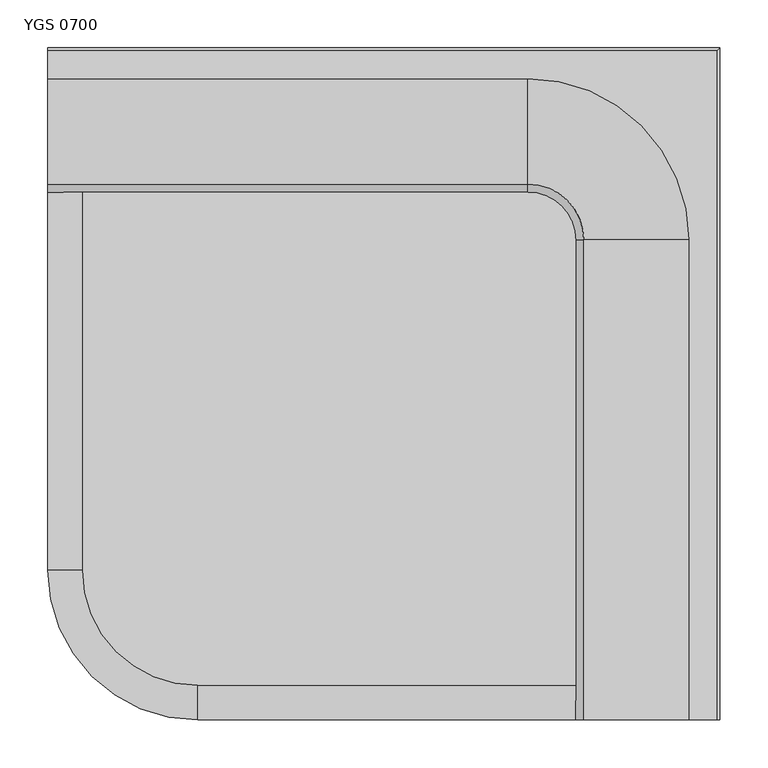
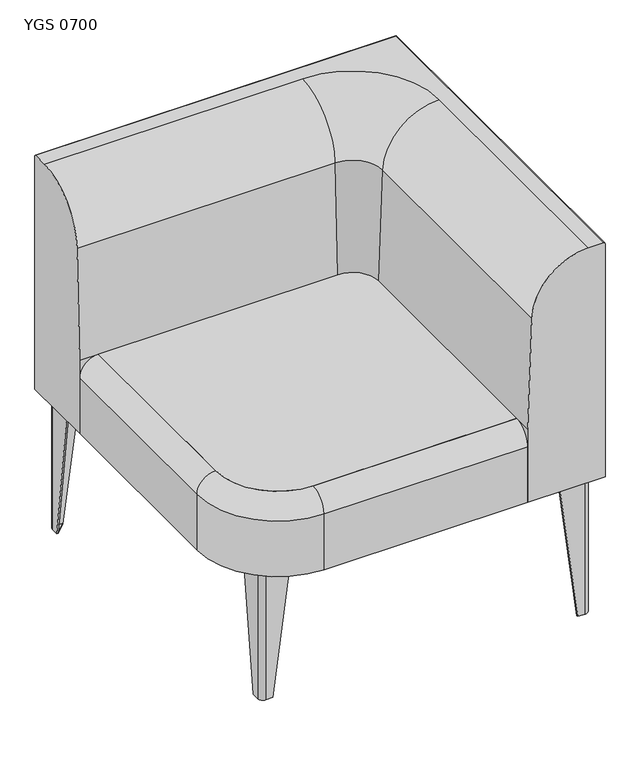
"""IFC4 building model written with IfcOpenShell, lengths in millimetres: furniture geometry, Mobiliário_Mobiliário de Escritório_LinhaYoung_Sofa Globe (Aço) - YGS_Marelli : YGS 0700."""

from ifc_helpers import new_model, si_unit, point, frame, frame_2d, origin, origin_with_axes, place, context, project, spatial, polyline, circle_curve, ellipse_curve, trimmed, segment, composite_curve, outline, extrude, source, transform, mapped, element, save
from ifc_brep_helpers import plane_surface, cylinder_surface, revolved_surface, advanced_brep


def ygs_0700_92577f61(model_context):
    return source(origin(), model_context, "Body", "SolidModel", [
        advanced_brep(
        [(70.7550905, 125.7550905, 280.0), (70.7550905, 75.7550905, 280.0), (80.7550905, 65.7550905, 280.0), (130.7550905, 65.7550905, 280.0), (130.7550905, 68.7550905, 280.0), (80.7550905, 68.7550905, 280.0), (73.7550905, 75.7550905, 280.0), (73.7550905, 125.7550905, 280.0), (70.7550905, 89.7550905, 0.0), (73.7550905, 89.7550905, 0.0), (73.7550905, 75.7550905, 0.0), (80.7550905, 68.7550905, 0.0), (94.7550905, 68.7550905, 0.0), (94.7550905, 65.7550905, 0.0), (80.7550905, 65.7550905, 0.0), (70.7550905, 75.7550905, 0.0)],
        [
            (0, 1),
            (1, 2, circle_curve(frame((80.7550905, 75.7550905, 280.0), z_axis=(0.0, 0.0, 1.0), x_axis=(0.0, -1.0, 0.0)), 10.0)),
            (2, 3),
            (3, 4),
            (4, 5),
            (5, 6, circle_curve(frame((80.7550905, 75.7550905, 280.0), z_axis=(0.0, 0.0, -1.0), x_axis=(-1.0, 0.0, 0.0)), 7.0)),
            (6, 7),
            (7, 0),
            (8, 9),
            (9, 10),
            (10, 11, circle_curve(frame((80.7550905, 75.7550905, 0.0), z_axis=(0.0, 0.0, 1.0), x_axis=(-1.0, 0.0, 0.0)), 7.0)),
            (11, 12),
            (12, 13),
            (13, 14),
            (14, 15, circle_curve(frame((80.7550905, 75.7550905, 0.0), z_axis=(0.0, 0.0, -1.0), x_axis=(0.0, -1.0, 0.0)), 10.0)),
            (15, 8),
            (15, 1),
            (0, 8),
            (14, 2),
            (13, 3),
            (12, 4),
            (11, 5),
            (10, 6),
            (9, 7),
        ],
        [
            plane_surface(frame((89.0050905, 84.0050905, 280.0), z_axis=(0.0, 0.0, 1.0), x_axis=(0.0, -1.0, 0.0))),
            plane_surface(frame((80.0050905, 75.0050905, 0.0), z_axis=(0.0, 0.0, -1.0), x_axis=(0.0, -1.0, 0.0))),
            plane_surface(frame((70.7550905, 82.7550905, 0.0), z_axis=(-1.0, 0.0, 0.0), x_axis=(0.0, -1.0, 0.0))),
            cylinder_surface(frame((80.7550905, 75.7550905, 0.0), z_axis=(0.0, 0.0, 1.0), x_axis=(0.0, -1.0, 0.0)), 10.0),
            plane_surface(frame((87.7550905, 65.7550905, 0.0), z_axis=(0.0, -1.0, 0.0), x_axis=(1.0, 0.0, 0.0))),
            plane_surface(frame((94.7550905, 67.2550905, 0.0), z_axis=(0.9918357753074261, 0.0, -0.127521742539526), x_axis=(0.0, 1.0, 0.0))),
            plane_surface(frame((87.7550905, 68.7550905, 0.0), z_axis=(0.0, 1.0, 0.0), x_axis=(-1.0, 0.0, 0.0))),
            revolved_surface(polyline([(73.7550905, 75.7550905, 280.0), (73.7550905, 75.7550905, 0.0)]), (80.7550905, 75.7550905, 0.0), (0.0, 0.0, 1.0)),
            plane_surface(frame((73.7550905, 82.7550905, 0.0), z_axis=(1.0, 0.0, 0.0), x_axis=(0.0, 1.0, 0.0))),
            plane_surface(frame((72.2550905, 89.7550905, 0.0), z_axis=(0.0, 0.9918357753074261, -0.127521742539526), x_axis=(-1.0, 0.0, 0.0))),
        ],
        [
            (0, [[1, 2, 3, 4, 5, 6, 7, 8]]),
            (1, [[9, 10, 11, 12, 13, 14, 15, 16]]),
            (2, [[-16, 17, -1, 18]]),
            (3, [[-15, 19, -2, -17]]),
            (4, [[-14, 20, -3, -19]]),
            (5, [[-13, 21, -4, -20]]),
            (6, [[-12, 22, -5, -21]]),
            (7, [[-11, 23, -6, -22]]),
            (8, [[-10, 24, -7, -23]]),
            (9, [[-9, -18, -8, -24]]),
        ],
    ),
        advanced_brep(
        [(680.0, 75.0, 280.0), (677.0, 75.0, 280.0), (677.0, 25.0, 280.0), (670.0, 18.0, 280.0), (620.0, 18.0, 280.0), (620.0, 15.0, 280.0), (670.0, 15.0, 280.0), (680.0, 25.0, 280.0), (680.0, 39.0, 0.0), (680.0, 25.0, 0.0), (670.0, 15.0, 0.0), (656.0, 15.0, 0.0), (656.0, 18.0, 0.0), (670.0, 18.0, 0.0), (677.0, 25.0, 0.0), (677.0, 39.0, 0.0)],
        [
            (0, 1),
            (1, 2),
            (2, 3, circle_curve(frame((670.0, 25.0, 280.0), z_axis=(0.0, 0.0, -1.0), x_axis=(0.0, -1.0, 0.0)), 7.0)),
            (3, 4),
            (4, 5),
            (5, 6),
            (6, 7, circle_curve(frame((670.0, 25.0, 280.0), z_axis=(0.0, 0.0, 1.0), x_axis=(1.0, 0.0, 0.0)), 10.0)),
            (7, 0),
            (8, 9),
            (9, 10, circle_curve(frame((670.0, 25.0, 0.0), z_axis=(0.0, 0.0, -1.0), x_axis=(1.0, 0.0, 0.0)), 10.0)),
            (10, 11),
            (11, 12),
            (12, 13),
            (13, 14, circle_curve(frame((670.0, 25.0, 0.0), z_axis=(0.0, 0.0, 1.0), x_axis=(0.0, -1.0, 0.0)), 7.0)),
            (14, 15),
            (15, 8),
            (8, 0),
            (7, 9),
            (6, 10),
            (5, 11),
            (4, 12),
            (3, 13),
            (2, 14),
            (1, 15),
        ],
        [
            plane_surface(frame((661.75, 33.25, 280.0), z_axis=(0.0, 0.0, 1.0), x_axis=(-1.0, 0.0, 0.0))),
            plane_surface(frame((670.75, 24.25, 0.0), z_axis=(0.0, 0.0, -1.0), x_axis=(-1.0, 0.0, 0.0))),
            plane_surface(frame((680.0, 32.0, 0.0), z_axis=(1.0, 0.0, 0.0), x_axis=(0.0, 1.0, 0.0))),
            cylinder_surface(frame((670.0, 25.0, 0.0), z_axis=(0.0, 0.0, 1.0), x_axis=(1.0, 0.0, 0.0)), 10.0),
            plane_surface(frame((663.0, 15.0, 0.0), z_axis=(0.0, -1.0, 0.0), x_axis=(1.0, 0.0, 0.0))),
            plane_surface(frame((656.0, 16.5, 0.0), z_axis=(-0.9918357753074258, 0.0, -0.1275217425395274), x_axis=(0.0, -1.0, 0.0))),
            plane_surface(frame((663.0, 18.0, 0.0), z_axis=(0.0, 1.0, 0.0), x_axis=(-1.0, 0.0, 0.0))),
            revolved_surface(polyline([(670.0, 18.0, 280.0), (670.0, 18.0, 0.0)]), (670.0, 25.0, 0.0), (0.0, 0.0, 1.0)),
            plane_surface(frame((677.0, 32.0, 0.0), z_axis=(-1.0, 0.0, 0.0), x_axis=(0.0, -1.0, 0.0))),
            plane_surface(frame((678.5, 39.0, 0.0), z_axis=(0.0, 0.9918357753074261, -0.12752174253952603), x_axis=(-1.0, 0.0, 0.0))),
        ],
        [
            (0, [[1, 2, 3, 4, 5, 6, 7, 8]]),
            (1, [[9, 10, 11, 12, 13, 14, 15, 16]]),
            (2, [[-9, 17, -8, 18]]),
            (3, [[-10, -18, -7, 19]]),
            (4, [[-11, -19, -6, 20]]),
            (5, [[-12, -20, -5, 21]]),
            (6, [[-13, -21, -4, 22]]),
            (7, [[-14, -22, -3, 23]]),
            (8, [[-15, -23, -2, 24]]),
            (9, [[-16, -24, -1, -17]]),
        ],
    ),
        advanced_brep(
        [(20.0, 625.0, 280.0), (23.0, 625.0, 280.0), (23.0, 675.0, 280.0), (30.0, 682.0, 280.0), (80.0, 682.0, 280.0), (80.0, 685.0, 280.0), (30.0, 685.0, 280.0), (20.0, 675.0, 280.0), (20.0, 661.0, 0.0), (20.0, 675.0, 0.0), (30.0, 685.0, 0.0), (44.0, 685.0, 0.0), (44.0, 682.0, 0.0), (30.0, 682.0, 0.0), (23.0, 675.0, 0.0), (23.0, 661.0, 0.0)],
        [
            (0, 1),
            (1, 2),
            (2, 3, circle_curve(frame((30.0, 675.0, 280.0), z_axis=(0.0, 0.0, -1.0), x_axis=(0.0, 1.0, 0.0)), 7.0)),
            (3, 4),
            (4, 5),
            (5, 6),
            (6, 7, circle_curve(frame((30.0, 675.0, 280.0), z_axis=(0.0, 0.0, 1.0), x_axis=(-1.0, 0.0, 0.0)), 10.0)),
            (7, 0),
            (8, 9),
            (9, 10, circle_curve(frame((30.0, 675.0, 0.0), z_axis=(0.0, 0.0, -1.0), x_axis=(-1.0, 0.0, 0.0)), 10.0)),
            (10, 11),
            (11, 12),
            (12, 13),
            (13, 14, circle_curve(frame((30.0, 675.0, 0.0), z_axis=(0.0, 0.0, 1.0), x_axis=(0.0, 1.0, 0.0)), 7.0)),
            (14, 15),
            (15, 8),
            (8, 0),
            (7, 9),
            (6, 10),
            (5, 11),
            (4, 12),
            (3, 13),
            (2, 14),
            (1, 15),
        ],
        [
            plane_surface(frame((38.25, 666.75, 280.0), z_axis=(0.0, 0.0, 1.0), x_axis=(1.0, 0.0, 0.0))),
            plane_surface(frame((29.25, 675.75, 0.0), z_axis=(0.0, 0.0, -1.0), x_axis=(1.0, 0.0, 0.0))),
            plane_surface(frame((20.0, 668.0, 0.0), z_axis=(-1.0, 0.0, 0.0), x_axis=(0.0, -1.0, 0.0))),
            cylinder_surface(frame((30.0, 675.0, 0.0), z_axis=(0.0, 0.0, 1.0), x_axis=(-1.0, 0.0, 0.0)), 10.0),
            plane_surface(frame((37.0, 685.0, 0.0), z_axis=(0.0, 1.0, 0.0), x_axis=(-1.0, 0.0, 0.0))),
            plane_surface(frame((44.0, 683.5, 0.0), z_axis=(0.9918357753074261, 0.0, -0.12752174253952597), x_axis=(0.0, 1.0, 0.0))),
            plane_surface(frame((37.0, 682.0, 0.0), z_axis=(0.0, -1.0, 0.0), x_axis=(1.0, 0.0, 0.0))),
            revolved_surface(polyline([(30.0, 682.0, 280.0), (30.0, 682.0, 0.0)]), (30.0, 675.0, 0.0), (0.0, 0.0, 1.0)),
            plane_surface(frame((23.0, 668.0, 0.0), z_axis=(1.0, 0.0, 0.0), x_axis=(0.0, 1.0, 0.0))),
            plane_surface(frame((21.5, 661.0, 0.0), z_axis=(0.0, -0.9918357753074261, -0.127521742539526), x_axis=(1.0, 0.0, 0.0))),
        ],
        [
            (0, [[1, 2, 3, 4, 5, 6, 7, 8]]),
            (1, [[9, 10, 11, 12, 13, 14, 15, 16]]),
            (2, [[-9, 17, -8, 18]]),
            (3, [[-10, -18, -7, 19]]),
            (4, [[-11, -19, -6, 20]]),
            (5, [[-12, -20, -5, 21]]),
            (6, [[-13, -21, -4, 22]]),
            (7, [[-14, -22, -3, 23]]),
            (8, [[-15, -23, -2, 24]]),
            (9, [[-16, -24, -1, -17]]),
        ],
    ),
        advanced_brep(
        [(680.0, 625.0, 280.0), (680.0, 675.0, 280.0), (670.0, 685.0, 280.0), (620.0, 685.0, 280.0), (620.0, 682.0, 280.0), (670.0, 682.0, 280.0), (677.0, 675.0, 280.0), (677.0, 625.0, 280.0), (680.0, 661.0, 0.0), (677.0, 661.0, 0.0), (677.0, 675.0, 0.0), (670.0, 682.0, 0.0), (656.0, 682.0, 0.0), (656.0, 685.0, 0.0), (670.0, 685.0, 0.0), (680.0, 675.0, 0.0)],
        [
            (0, 1),
            (1, 2, circle_curve(frame((670.0, 675.0, 280.0), z_axis=(0.0, 0.0, 1.0), x_axis=(0.0, 1.0, 0.0)), 10.0)),
            (2, 3),
            (3, 4),
            (4, 5),
            (5, 6, circle_curve(frame((670.0, 675.0, 280.0), z_axis=(0.0, 0.0, -1.0), x_axis=(1.0, 0.0, 0.0)), 7.0)),
            (6, 7),
            (7, 0),
            (8, 9),
            (9, 10),
            (10, 11, circle_curve(frame((670.0, 675.0, 0.0), z_axis=(0.0, 0.0, 1.0), x_axis=(1.0, 0.0, 0.0)), 7.0)),
            (11, 12),
            (12, 13),
            (13, 14),
            (14, 15, circle_curve(frame((670.0, 675.0, 0.0), z_axis=(0.0, 0.0, -1.0), x_axis=(0.0, 1.0, 0.0)), 10.0)),
            (15, 8),
            (15, 1),
            (0, 8),
            (14, 2),
            (13, 3),
            (12, 4),
            (11, 5),
            (10, 6),
            (9, 7),
        ],
        [
            plane_surface(frame((661.75, 666.75, 280.0), z_axis=(0.0, 0.0, 1.0), x_axis=(0.0, 1.0, 0.0))),
            plane_surface(frame((670.75, 675.75, 0.0), z_axis=(0.0, 0.0, -1.0), x_axis=(0.0, 1.0, 0.0))),
            plane_surface(frame((680.0, 668.0, 0.0), z_axis=(1.0, 0.0, 0.0), x_axis=(0.0, 1.0, 0.0))),
            cylinder_surface(frame((670.0, 675.0, 0.0), z_axis=(0.0, 0.0, 1.0), x_axis=(0.0, 1.0, 0.0)), 10.0),
            plane_surface(frame((663.0, 685.0, 0.0), z_axis=(0.0, 1.0, 0.0), x_axis=(-1.0, 0.0, 0.0))),
            plane_surface(frame((656.0, 683.5, 0.0), z_axis=(-0.9918357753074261, 0.0, -0.127521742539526), x_axis=(0.0, -1.0, 0.0))),
            plane_surface(frame((663.0, 682.0, 0.0), z_axis=(0.0, -1.0, 0.0), x_axis=(1.0, 0.0, 0.0))),
            revolved_surface(polyline([(677.0, 675.0, 280.0), (677.0, 675.0, 0.0)]), (670.0, 675.0, 0.0), (0.0, 0.0, 1.0)),
            plane_surface(frame((677.0, 668.0, 0.0), z_axis=(-1.0, 0.0, 0.0), x_axis=(0.0, -1.0, 0.0))),
            plane_surface(frame((678.5, 661.0, 0.0), z_axis=(0.0, -0.9918357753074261, -0.127521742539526), x_axis=(1.0, 0.0, 0.0))),
        ],
        [
            (0, [[1, 2, 3, 4, 5, 6, 7, 8]]),
            (1, [[9, 10, 11, 12, 13, 14, 15, 16]]),
            (2, [[-16, 17, -1, 18]]),
            (3, [[-15, 19, -2, -17]]),
            (4, [[-14, 20, -3, -19]]),
            (5, [[-13, 21, -4, -20]]),
            (6, [[-12, 22, -5, -21]]),
            (7, [[-11, 23, -6, -22]]),
            (8, [[-10, 24, -7, -23]]),
            (9, [[-9, -18, -8, -24]]),
        ],
    ),
        extrude(outline(composite_curve([segment(polyline([(73.7550905, 89.7550905), (94.7550905, 68.7550905), (80.7550905, 68.7550905)]), True, "CONTINUOUS"), segment(trimmed(circle_curve(frame_2d((80.7550905, 75.7550905)), 7.0), [point((80.7550905, 68.7550905))], [point((73.7550905, 75.7550905))], False, "CARTESIAN"), True, "CONTINUOUS"), segment(polyline([(73.7550905, 75.7550905), (73.7550905, 89.7550905)]), True, "CONTINUOUS")], self_intersect=False)), origin_with_axes(), (0.0, 0.0, 1.0), 1.0),
        extrude(outline(composite_curve([segment(polyline([(23.0, 661.0), (23.0, 675.0)]), True, "CONTINUOUS"), segment(trimmed(circle_curve(frame_2d((30.0, 675.0)), 7.0), [point((23.0, 675.0))], [point((30.0, 682.0))], False, "CARTESIAN"), True, "CONTINUOUS"), segment(polyline([(30.0, 682.0), (44.0, 682.0), (23.0, 661.0)]), True, "CONTINUOUS")], self_intersect=False)), origin_with_axes(), (0.0, 0.0, 1.0), 1.0),
        extrude(outline(composite_curve([segment(polyline([(677.0, 39.0), (677.0, 25.0)]), True, "CONTINUOUS"), segment(trimmed(circle_curve(frame_2d((670.0, 25.0)), 7.0), [point((677.0, 25.0))], [point((670.0, 18.0))], False, "CARTESIAN"), True, "CONTINUOUS"), segment(polyline([(670.0, 18.0), (656.0, 18.0), (677.0, 39.0)]), True, "CONTINUOUS")], self_intersect=False)), origin_with_axes(), (0.0, 0.0, 1.0), 1.0),
        extrude(outline(composite_curve([segment(polyline([(677.0, 661.0), (656.0, 682.0), (670.0, 682.0)]), True, "CONTINUOUS"), segment(trimmed(circle_curve(frame_2d((670.0, 675.0)), 7.0), [point((670.0, 682.0))], [point((677.0, 675.0))], False, "CARTESIAN"), True, "CONTINUOUS"), segment(polyline([(677.0, 675.0), (677.0, 661.0)]), True, "CONTINUOUS")], self_intersect=False)), origin_with_axes(), (0.0, 0.0, 1.0), 1.0),
        extrude(outline(composite_curve([segment(trimmed(circle_curve(frame_2d((80.7550905, 75.7550905)), 7.0), [point((80.7550905, 68.7550905))], [point((73.7550905, 75.7550905))], False, "CARTESIAN"), True, "CONTINUOUS"), segment(polyline([(73.7550905, 75.7550905), (73.7550905, 143.7550905)]), True, "CONTINUOUS"), segment(trimmed(circle_curve(frame_2d((78.7550905, 143.7550905)), 5.0), [point((73.7550905, 143.7550905))], [point((78.7550905, 148.7550905))], False, "CARTESIAN"), True, "CONTINUOUS"), segment(polyline([(78.7550905, 148.7550905), (102.7096529, 148.7550905)]), True, "CONTINUOUS"), segment(trimmed(circle_curve(frame_2d((103.3791957, 140.6868455)), 8.0959783), [point((102.7096529, 148.7550905))], [point((109.2754725, 146.2347085))], False, "CARTESIAN"), True, "CONTINUOUS"), segment(polyline([(109.2754725, 146.2347085), (151.2347085, 104.2754725)]), True, "CONTINUOUS"), segment(trimmed(circle_curve(frame_2d((145.6868455, 98.3791957)), 8.0959783), [point((151.2347085, 104.2754725))], [point((153.7550905, 97.7096529))], False, "CARTESIAN"), True, "CONTINUOUS"), segment(polyline([(153.7550905, 97.7096529), (153.7550905, 73.7550905)]), True, "CONTINUOUS"), segment(trimmed(circle_curve(frame_2d((148.7550905, 73.7550905)), 5.0), [point((153.7550905, 73.7550905))], [point((148.7550905, 68.7550905))], False, "CARTESIAN"), True, "CONTINUOUS"), segment(polyline([(148.7550905, 68.7550905), (80.7550905, 68.7550905)]), True, "CONTINUOUS")], self_intersect=False)), frame((0.0, 0.0, 279.0), z_axis=(0.0, 0.0, 1.0), x_axis=(1.0, 0.0, 0.0)), (0.0, 0.0, 1.0), 1.0),
        extrude(outline(composite_curve([segment(polyline([(30.0, 682.0), (98.0, 682.0)]), True, "CONTINUOUS"), segment(trimmed(circle_curve(frame_2d((98.0, 677.0)), 5.0), [point((98.0, 682.0))], [point((103.0, 677.0))], False, "CARTESIAN"), True, "CONTINUOUS"), segment(polyline([(103.0, 677.0), (103.0, 653.0454376)]), True, "CONTINUOUS"), segment(trimmed(circle_curve(frame_2d((94.931755, 652.3758949)), 8.0959783), [point((103.0, 653.0454376))], [point((100.479618, 646.479618))], False, "CARTESIAN"), True, "CONTINUOUS"), segment(polyline([(100.479618, 646.479618), (58.520382, 604.520382)]), True, "CONTINUOUS"), segment(trimmed(circle_curve(frame_2d((52.6241051, 610.068245)), 8.0959783), [point((58.520382, 604.520382))], [point((51.9545624, 602.0))], False, "CARTESIAN"), True, "CONTINUOUS"), segment(polyline([(51.9545624, 602.0), (28.0, 602.0)]), True, "CONTINUOUS"), segment(trimmed(circle_curve(frame_2d((28.0, 607.0)), 5.0), [point((28.0, 602.0))], [point((23.0, 607.0))], False, "CARTESIAN"), True, "CONTINUOUS"), segment(polyline([(23.0, 607.0), (23.0, 675.0)]), True, "CONTINUOUS"), segment(trimmed(circle_curve(frame_2d((30.0, 675.0)), 7.0), [point((23.0, 675.0))], [point((30.0, 682.0))], False, "CARTESIAN"), True, "CONTINUOUS")], self_intersect=False)), frame((0.0, 0.0, 279.0), z_axis=(0.0, 0.0, 1.0), x_axis=(1.0, 0.0, 0.0)), (0.0, 0.0, 1.0), 1.0),
        extrude(outline(composite_curve([segment(polyline([(670.0, 18.0), (602.0, 18.0)]), True, "CONTINUOUS"), segment(trimmed(circle_curve(frame_2d((602.0, 23.0)), 5.0), [point((602.0, 18.0))], [point((597.0, 23.0))], False, "CARTESIAN"), True, "CONTINUOUS"), segment(polyline([(597.0, 23.0), (597.0, 46.9545624)]), True, "CONTINUOUS"), segment(trimmed(circle_curve(frame_2d((605.068245, 47.6241051)), 8.0959783), [point((597.0, 46.9545624))], [point((599.520382, 53.520382))], False, "CARTESIAN"), True, "CONTINUOUS"), segment(polyline([(599.520382, 53.520382), (601.479618, 95.479618)]), True, "CONTINUOUS"), segment(trimmed(circle_curve(frame_2d((607.3758949, 89.931755)), 8.0959783), [point((601.479618, 95.479618))], [point((608.0454376, 98.0))], False, "CARTESIAN"), True, "CONTINUOUS"), segment(polyline([(608.0454376, 98.0), (632.0, 98.0)]), True, "CONTINUOUS"), segment(trimmed(circle_curve(frame_2d((632.0, 53.0)), 45.0), [point((632.0, 98.0))], [point((677.0, 53.0))], False, "CARTESIAN"), True, "CONTINUOUS"), segment(polyline([(677.0, 53.0), (677.0, 25.0)]), True, "CONTINUOUS"), segment(trimmed(circle_curve(frame_2d((670.0, 25.0)), 7.0), [point((677.0, 25.0))], [point((670.0, 18.0))], False, "CARTESIAN"), True, "CONTINUOUS")], self_intersect=False)), frame((0.0, 0.0, 279.0), z_axis=(0.0, 0.0, 1.0), x_axis=(1.0, 0.0, 0.0)), (0.0, 0.0, 1.0), 1.0),
        extrude(outline(composite_curve([segment(trimmed(circle_curve(frame_2d((670.0, 675.0)), 7.0), [point((670.0, 682.0))], [point((677.0, 675.0))], False, "CARTESIAN"), True, "CONTINUOUS"), segment(polyline([(677.0, 675.0), (677.0, 607.0)]), True, "CONTINUOUS"), segment(trimmed(circle_curve(frame_2d((672.0, 607.0)), 5.0), [point((677.0, 607.0))], [point((672.0, 602.0))], False, "CARTESIAN"), True, "CONTINUOUS"), segment(polyline([(672.0, 602.0), (648.0454376, 602.0)]), True, "CONTINUOUS"), segment(trimmed(circle_curve(frame_2d((647.3758949, 610.068245)), 8.0959783), [point((648.0454376, 602.0))], [point((641.479618, 604.520382))], False, "CARTESIAN"), True, "CONTINUOUS"), segment(polyline([(641.479618, 604.520382), (599.520382, 646.479618)]), True, "CONTINUOUS"), segment(trimmed(circle_curve(frame_2d((605.068245, 652.3758949)), 8.0959783), [point((599.520382, 646.479618))], [point((597.0, 653.0454376))], False, "CARTESIAN"), True, "CONTINUOUS"), segment(polyline([(597.0, 653.0454376), (597.0, 677.0)]), True, "CONTINUOUS"), segment(trimmed(circle_curve(frame_2d((602.0, 677.0)), 5.0), [point((597.0, 677.0))], [point((602.0, 682.0))], False, "CARTESIAN"), True, "CONTINUOUS"), segment(polyline([(602.0, 682.0), (670.0, 682.0)]), True, "CONTINUOUS")], self_intersect=False)), frame((0.0, 0.0, 279.0), z_axis=(0.0, 0.0, 1.0), x_axis=(1.0, 0.0, 0.0)), (0.0, 0.0, 1.0), 1.0),
        advanced_brep(
        [(0.0, 668.0, 760.0), (500.0, 668.0, 760.0), (668.0, 500.0, 760.0), (668.0, 0.0, 760.0), (696.9835797, 0.0, 760.0), (696.9835797, 696.9835797, 760.0), (0.0, 696.9835797, 760.0), (700.0, 0.0, 280.0), (550.0, 0.0, 280.0), (550.0, 36.0, 280.0), (156.0, 36.0, 280.0), (36.0, 156.0, 280.0), (36.0, 550.0, 280.0), (0.0, 550.0, 280.0), (0.0, 700.0, 280.0), (700.0, 700.0, 280.0), (0.0, 700.0, 756.9835797), (700.0, 700.0, 756.9835797), (700.0, 0.0, 756.9835797), (558.2568376, 0.0, 654.223651), (550.0, 0.0, 430.0), (558.2568376, 500.0, 654.223651), (550.0, 500.0, 430.0), (550.0, 36.0, 430.0), (500.0, 558.2568376, 654.223651), (500.0, 550.0, 430.0), (0.0, 550.0, 430.0), (0.0, 558.2568376, 654.223651), (36.0, 550.0, 430.0), (36.0, 156.0, 430.0), (156.0, 36.0, 430.0)],
        [
            (0, 1),
            (1, 2, circle_curve(frame((500.0, 500.0, 760.0), z_axis=(0.0, 0.0, -1.0), x_axis=(1.0, 0.0, 0.0)), 168.0)),
            (2, 3),
            (3, 4),
            (4, 5),
            (5, 6),
            (6, 0),
            (7, 8),
            (8, 9),
            (9, 10),
            (10, 11, circle_curve(frame((156.0, 156.0, 280.0), z_axis=(0.0, 0.0, -1.0), x_axis=(0.0, -1.0, 0.0)), 120.0)),
            (11, 12),
            (12, 13),
            (13, 14),
            (14, 15),
            (15, 7),
            (14, 16),
            (16, 17),
            (17, 15),
            (17, 18),
            (18, 7),
            (3, 19, circle_curve(frame((668.0, 0.0, 650.1824561), z_axis=(0.0, -1.0, 0.0), x_axis=(1.0, 0.0, 0.0)), 109.8175439)),
            (19, 20),
            (20, 8),
            (18, 4, circle_curve(frame((696.9835797, 0.0, 756.9835797), z_axis=(0.0, -1.0, 0.0), x_axis=(1.0, 0.0, 0.0)), 3.0164203)),
            (2, 21, circle_curve(frame((668.0, 500.0, 650.1824561), z_axis=(0.0, -1.0, 0.0), x_axis=(1.0, 0.0, 0.0)), 109.8175439)),
            (21, 19),
            (21, 22),
            (22, 23),
            (23, 20),
            (23, 9),
            (1, 24, circle_curve(frame((500.0, 668.0, 650.1824561), z_axis=(1.0, 0.0, 0.0), x_axis=(0.0, 1.0, 0.0)), 109.8175439)),
            (24, 21, circle_curve(frame((500.0, 500.0, 654.223651), z_axis=(0.0, 0.0, -1.0), x_axis=(1.0, 0.0, 0.0)), 58.2568376)),
            (24, 25),
            (25, 22, circle_curve(frame((500.0, 500.0, 430.0), z_axis=(0.0, 0.0, -1.0), x_axis=(1.0, 0.0, 0.0)), 50.0)),
            (13, 26),
            (26, 27),
            (27, 0, circle_curve(frame((0.0, 668.0, 650.1824561), z_axis=(-1.0, 0.0, 0.0), x_axis=(0.0, 1.0, 0.0)), 109.8175439)),
            (6, 16, circle_curve(frame((0.0, 696.9835797, 756.9835797), z_axis=(-1.0, 0.0, 0.0), x_axis=(0.0, 1.0, 0.0)), 3.0164203)),
            (27, 24),
            (26, 28),
            (28, 25),
            (12, 28),
            (17, 5, ellipse_curve(frame((696.9835797, 696.9835797, 756.9835797), z_axis=(0.7071067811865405, -0.7071067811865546, 0.0), x_axis=(0.7071067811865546, 0.7071067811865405, 0.0)), 4.2658626, 3.0164203)),
            (28, 29),
            (29, 30, circle_curve(frame((156.0, 156.0, 430.0), z_axis=(0.0, 0.0, 1.0), x_axis=(0.0, -1.0, 0.0)), 120.0)),
            (30, 23),
            (11, 29),
            (30, 10),
        ],
        [
            plane_surface(frame((500.0, 700.0, 760.0), z_axis=(0.0, 0.0, 1.0), x_axis=(-1.0, 0.0, 0.0))),
            plane_surface(frame((500.0, 700.0, 280.0), z_axis=(0.0, 0.0, -1.0), x_axis=(1.0, 0.0, 0.0))),
            plane_surface(frame((700.0, 700.0, 760.0), z_axis=(0.0, 1.0, 0.0), x_axis=(0.0, 0.0, -1.0))),
            plane_surface(frame((700.0, 500.0, 760.0), z_axis=(1.0, 0.0, 0.0), x_axis=(0.0, 0.0, -1.0))),
            plane_surface(frame((550.0, 0.0, 0.0), z_axis=(0.0, -1.0, 0.0), x_axis=(0.0, 0.0, 1.0))),
            cylinder_surface(frame((668.0, 0.0, 650.1824561), z_axis=(0.0, -1.0, 0.0), x_axis=(1.0, 0.0, 0.0)), 109.8175439),
            plane_surface(frame((558.2568376, 0.0, 654.223651), z_axis=(-0.9993226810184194, 0.0, 0.036799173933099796), x_axis=(0.0, 1.0, 0.0))),
            plane_surface(frame((550.0, 0.0, 430.0), z_axis=(-1.0, 0.0, 0.0), x_axis=(0.0, 1.0, 0.0))),
            revolved_surface(trimmed(ellipse_curve(frame((668.0, 500.0, 650.1824561), z_axis=(0.0, -1.0, 0.0), x_axis=(1.0, 0.0, 0.0)), 109.8175439, 109.8175439), [point((668.0, 500.0, 760.0))], [point((558.2568376, 500.0, 654.223651))], True, "CARTESIAN"), (500.0, 500.0, 0.0), (0.0, 0.0, 1.0)),
            revolved_surface(polyline([(558.2568376, 500.0, 654.223651), (550.0, 500.0, 430.0)]), (500.0, 500.0, 0.0), (0.0, 0.0, 1.0)),
            plane_surface(frame((0.0, 550.0, 0.0), z_axis=(-1.0, 0.0, 0.0), x_axis=(0.0, 0.0, 1.0))),
            cylinder_surface(frame((500.0, 668.0, 650.1824561), z_axis=(1.0, 0.0, 0.0), x_axis=(0.0, 1.0, 0.0)), 109.8175439),
            plane_surface(frame((500.0, 558.2568376, 654.223651), z_axis=(0.0, -0.9993226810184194, 0.036799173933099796), x_axis=(-1.0, 0.0, 0.0))),
            plane_surface(frame((500.0, 550.0, 430.0), z_axis=(0.0, -1.0, 0.0), x_axis=(-1.0, 0.0, 0.0))),
            cylinder_surface(frame((696.9835797, 700.0, 756.9835797), z_axis=(0.0, 1.0, 0.0), x_axis=(1.0, 0.0, 0.0)), 3.0164203),
            cylinder_surface(frame((700.0, 696.9835797, 756.9835797), z_axis=(1.0, 0.0, 0.0), x_axis=(0.0, 1.0, 0.0)), 3.0164203),
            plane_surface(frame((0.0, 550.0, 430.0), z_axis=(0.0, 0.0, 1.0), x_axis=(-1.0, 0.0, 0.0))),
            plane_surface(frame((36.0, 550.0, 430.0), z_axis=(-1.0, 0.0, 0.0), x_axis=(0.0, 0.0, -1.0))),
            plane_surface(frame((156.0, 36.0, 430.0), z_axis=(0.0, -1.0, 0.0), x_axis=(0.0, 0.0, -1.0))),
            cylinder_surface(frame((156.0, 156.0, 280.0), z_axis=(0.0, 0.0, 1.0), x_axis=(0.0, -1.0, 0.0)), 120.0),
        ],
        [
            (0, [[1, 2, 3, 4, 5, 6, 7]]),
            (1, [[8, 9, 10, 11, 12, 13, 14, 15, 16]]),
            (2, [[-15, 17, 18, 19]]),
            (3, [[-16, -19, 20, 21]]),
            (4, [[22, 23, 24, -8, -21, 25, -4]]),
            (5, [[-22, -3, 26, 27]]),
            (6, [[-23, -27, 28, 29, 30]]),
            (7, [[-24, -30, 31, -9]]),
            (8, [[-2, 32, 33, -26]]),
            (9, [[-28, -33, 34, 35]]),
            (10, [[-14, 36, 37, 38, -7, 39, -17]]),
            (11, [[-1, -38, 40, -32]]),
            (12, [[-34, -40, -37, 41, 42]]),
            (13, [[-36, -13, 43, -41]]),
            (14, [[-20, 44, -5, -25]]),
            (15, [[-6, -44, -18, -39]]),
            (16, [[45, 46, 47, -29, -35, -42]]),
            (17, [[-45, -43, -12, 48]]),
            (18, [[-47, 49, -10, -31]]),
            (19, [[-46, -48, -11, -49]]),
        ],
    ),
        advanced_brep(
        [(550.0, 0.0, 280.0), (550.0, 36.0, 280.0), (550.0, 36.0, 430.0), (550.0, 0.0, 394.0), (156.0, 0.0, 280.0), (0.0, 156.0, 280.0), (0.0, 550.0, 280.0), (36.0, 550.0, 280.0), (36.0, 156.0, 280.0), (156.0, 36.0, 280.0), (156.0, 36.0, 430.0), (156.0, 0.0, 394.0), (36.0, 156.0, 430.0), (0.0, 156.0, 394.0), (0.0, 550.0, 394.0), (36.0, 550.0, 430.0)],
        [
            (0, 1),
            (1, 2),
            (2, 3, circle_curve(frame((550.0, 36.0, 394.0), z_axis=(1.0, 0.0, 0.0), x_axis=(0.0, 1.0, 0.0)), 36.0)),
            (3, 0),
            (0, 4),
            (4, 5, circle_curve(frame((156.0, 156.0, 280.0), z_axis=(0.0, 0.0, -1.0), x_axis=(0.0, -1.0, 0.0)), 156.0)),
            (5, 6),
            (6, 7),
            (7, 8),
            (8, 9, circle_curve(frame((156.0, 156.0, 280.0), z_axis=(0.0, 0.0, 1.0), x_axis=(0.0, -1.0, 0.0)), 120.0)),
            (9, 1),
            (9, 10),
            (10, 2),
            (10, 11, circle_curve(frame((156.0, 36.0, 394.0), z_axis=(1.0, 0.0, 0.0), x_axis=(0.0, 1.0, 0.0)), 36.0)),
            (11, 3),
            (11, 4),
            (12, 10, circle_curve(frame((156.0, 156.0, 430.0), z_axis=(0.0, 0.0, 1.0), x_axis=(0.0, -1.0, 0.0)), 120.0)),
            (8, 12),
            (13, 11, circle_curve(frame((156.0, 156.0, 394.0), z_axis=(0.0, 0.0, 1.0), x_axis=(0.0, -1.0, 0.0)), 156.0)),
            (12, 13, circle_curve(frame((36.0, 156.0, 394.0), z_axis=(0.0, -1.0, 0.0), x_axis=(1.0, 0.0, 0.0)), 36.0)),
            (13, 5),
            (6, 14),
            (14, 15, circle_curve(frame((36.0, 550.0, 394.0), z_axis=(0.0, 1.0, 0.0), x_axis=(1.0, 0.0, 0.0)), 36.0)),
            (15, 7),
            (15, 12),
            (14, 13),
        ],
        [
            plane_surface(frame((550.0, 36.0, 0.0), z_axis=(1.0, 0.0, 0.0), x_axis=(0.0, 0.0, 1.0))),
            plane_surface(frame((550.0, 0.0, 280.0), z_axis=(0.0, 0.0, -1.0), x_axis=(-1.0, 0.0, 0.0))),
            plane_surface(frame((550.0, 36.0, 280.0), z_axis=(0.0, 1.0, 0.0), x_axis=(-1.0, 0.0, 0.0))),
            cylinder_surface(frame((550.0, 36.0, 394.0), z_axis=(1.0, 0.0, 0.0), x_axis=(0.0, 1.0, 0.0)), 36.0),
            plane_surface(frame((550.0, 0.0, 394.0), z_axis=(0.0, -1.0, 0.0), x_axis=(-1.0, 0.0, 0.0))),
            revolved_surface(polyline([(156.0, 36.0, 280.0), (156.0, 36.0, 430.0)]), (156.0, 156.0, 0.0), (0.0, 0.0, -1.0)),
            revolved_surface(trimmed(ellipse_curve(frame((156.0, 36.0, 394.0), z_axis=(1.0, 0.0, 0.0), x_axis=(0.0, 1.0, 0.0)), 36.0, 36.0), [point((156.0, 36.0, 430.0))], [point((156.0, 0.0, 394.0))], True, "CARTESIAN"), (156.0, 156.0, 0.0), (0.0, 0.0, -1.0)),
            cylinder_surface(frame((156.0, 156.0, 0.0), z_axis=(0.0, 0.0, -1.0), x_axis=(0.0, -1.0, 0.0)), 156.0),
            plane_surface(frame((36.0, 550.0, 0.0), z_axis=(0.0, 1.0, 0.0), x_axis=(0.0, 0.0, 1.0))),
            plane_surface(frame((36.0, 156.0, 280.0), z_axis=(1.0, 0.0, 0.0), x_axis=(0.0, 1.0, 0.0))),
            cylinder_surface(frame((36.0, 156.0, 394.0), z_axis=(0.0, -1.0, 0.0), x_axis=(1.0, 0.0, 0.0)), 36.0),
            plane_surface(frame((0.0, 156.0, 394.0), z_axis=(-1.0, 0.0, 0.0), x_axis=(0.0, 1.0, 0.0))),
        ],
        [
            (0, [[1, 2, 3, 4]]),
            (1, [[-1, 5, 6, 7, 8, 9, 10, 11]]),
            (2, [[-2, -11, 12, 13]]),
            (3, [[-3, -13, 14, 15]]),
            (4, [[-4, -15, 16, -5]]),
            (5, [[17, -12, -10, 18]]),
            (6, [[19, -14, -17, 20]]),
            (7, [[-6, -16, -19, 21]]),
            (8, [[22, 23, 24, -8]]),
            (9, [[-18, -9, -24, 25]]),
            (10, [[-20, -25, -23, 26]]),
            (11, [[-21, -26, -22, -7]]),
        ],
    ),
    ])


if __name__ == "__main__":
    model = new_model("IFC4")
    model_context = context("Model", 3, world=origin())
    ifc_project = project(units=[si_unit("LENGTHUNIT", "METRE", prefix="MILLI")], contexts=[model_context])
    site = spatial("IfcSite", under=ifc_project)
    building = spatial("IfcBuilding", under=site)
    placement = place(None, origin())
    ygs_0700_shape = ygs_0700_92577f61(model_context)
    element("IfcFurniture", 1, ObjectType="Mobiliário_Mobiliário de Escritório_LinhaYoung_Sofa Globe (Aço) - YGS_Marelli : YGS 0700", at=placement, inside=building, context=model_context, shape_type="MappedRepresentation", body=[
        mapped(ygs_0700_shape, transform((0.0, 0.0, 0.0), x_axis=(1.0, 0.0, 0.0), y_axis=(0.0, 1.0, 0.0), z_axis=(0.0, 0.0, 1.0))),
    ])
    save(model, "model.ifc")
